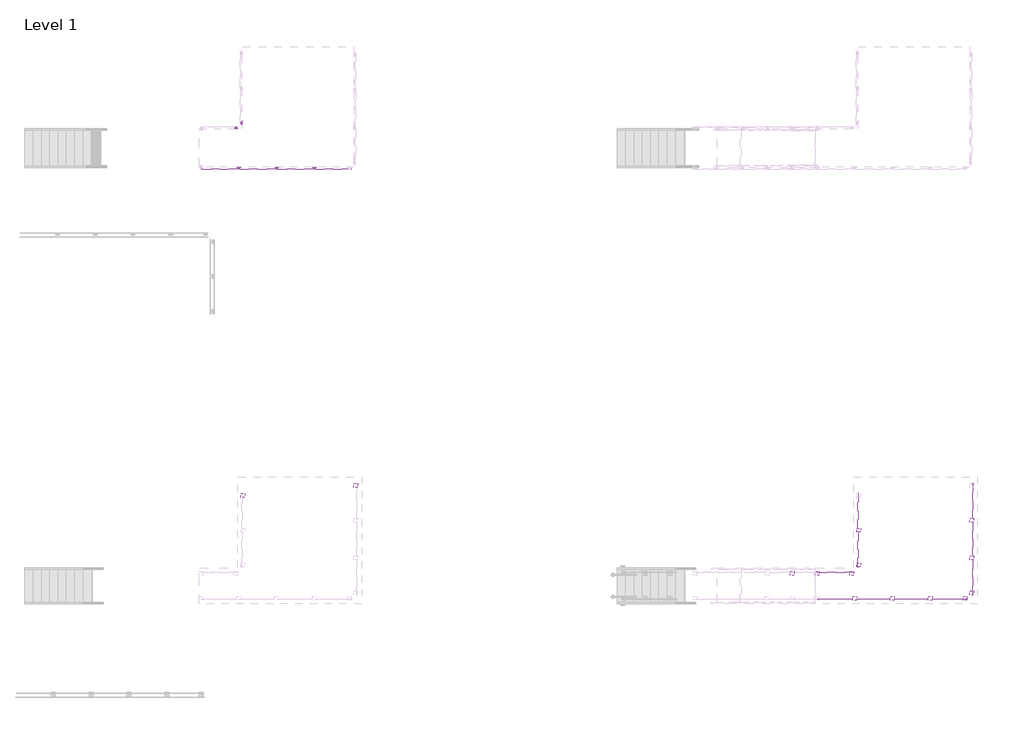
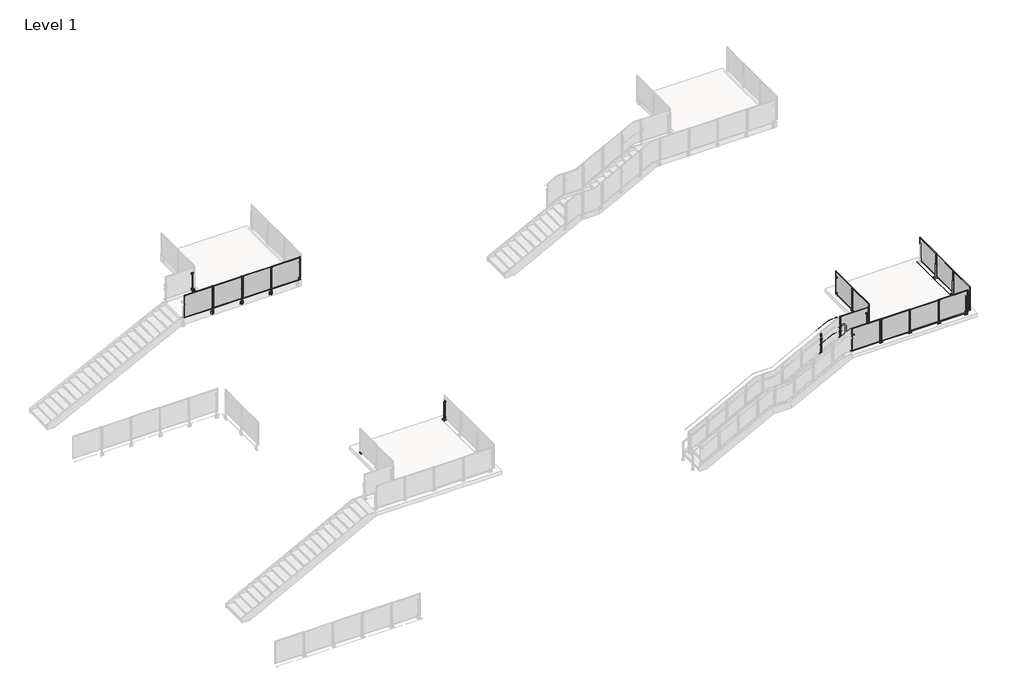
# One storey, part 15 of 28: 9 proxies, 6 railings.
"""IFC4 building model written with IfcOpenShell, lengths in millimetres."""

from ifc_helpers import new_model, si_unit, point, frame, frame_2d, origin, place, context, project, spatial, polyline, circle_curve, ellipse_curve, trimmed, segment, composite_curve, outline, extrude, transform, mapped, element, save
from ifc_brep_helpers import plane_surface, cylinder_surface, advanced_brep
from components import building_element_proxy_d87515a7, building_element_proxy_f0dd287b, building_element_proxy_88367a16, building_element_proxy_bd17ef1f, building_element_proxy_0a0706d1

model = new_model("IFC4")

# Units and contexts
model_context = context("Model", 3, world=origin())
ifc_project = project(units=[si_unit("LENGTHUNIT", "METRE", prefix="MILLI")], contexts=[model_context])

# Site, building, storey
site = spatial("IfcSite", under=ifc_project)
building = spatial("IfcBuilding", under=site)
storey = spatial("IfcBuildingStorey", under=building, Name="Level 1", Elevation=0.0)

# Proxies
placement = place(None, origin())
building_element_proxy_shape = building_element_proxy_d87515a7(model_context)
element("IfcBuildingElementProxy", 1, Name="Baluster-End-Post-VIVA-STRUC-Top Mount : ANCHORED TO CONCRETE_TOP MOUNT STRUC_STRAIGHT", ObjectType="Baluster-End-Post-VIVA-STRUC-Top Mount : ANCHORED TO CONCRETE_TOP MOUNT STRUC_STRAIGHT", at=placement, inside=storey, context=model_context, shape_type="MappedRepresentation", body=[
    mapped(building_element_proxy_shape, transform((-7177.6759339, -18337.8968047, 3047.492), x_axis=(0.0, 1.0, 0.0), y_axis=(-1.0, 0.0, 0.0), z_axis=(0.0, 0.0, 1.0))),
])
element("IfcBuildingElementProxy", 2, Name="Baluster-End-Post-VIVA-STRUC-Top Mount : ANCHORED TO CONCRETE_TOP MOUNT STRUC_STRAIGHT", ObjectType="Baluster-End-Post-VIVA-STRUC-Top Mount : ANCHORED TO CONCRETE_TOP MOUNT STRUC_STRAIGHT", at=placement, inside=storey, context=model_context, shape_type="MappedRepresentation", body=[
    mapped(building_element_proxy_shape, transform((-11020.4813244, -17678.0558878, 3047.492), x_axis=(-1.0, 0.0, 0.0), y_axis=(0.0, -1.0, 0.0), z_axis=(0.0, 0.0, 1.0))),
])
building_element_proxy_2_shape = building_element_proxy_f0dd287b(model_context)
element("IfcBuildingElementProxy", 3, Name="Baluster-End-Post-VIVA-STRUC-Top Mount : WELDED Fascia MOUNT STRUC_STRAIGHT", ObjectType="Baluster-End-Post-VIVA-STRUC-Top Mount : WELDED Fascia MOUNT STRUC_STRAIGHT", at=placement, inside=storey, context=model_context, shape_type="MappedRepresentation", body=[
    mapped(building_element_proxy_2_shape, transform((-31745.9500753, -2683.2814603, 3047.492), x_axis=(-1.0, 0.0, 0.0), y_axis=(0.0, -1.0, 0.0), z_axis=(0.0, 0.0, 1.0))),
])
building_element_proxy_3_shape = building_element_proxy_88367a16(model_context)
element("IfcBuildingElementProxy", 4, Name="Baluster-End-Post-VIVA-STRUC-Top Mount : ANCHORED TO CONCRETE_TOP MOUNT STRUC_STRAIGHT", ObjectType="Baluster-End-Post-VIVA-STRUC-Top Mount : ANCHORED TO CONCRETE_TOP MOUNT STRUC_STRAIGHT", at=placement, inside=storey, context=model_context, shape_type="MappedRepresentation", body=[
    mapped(building_element_proxy_3_shape, transform((-27904.0759339, -14527.8968047, 3047.492), x_axis=(0.0, 1.0, 0.0), y_axis=(-1.0, 0.0, 0.0), z_axis=(0.0, 0.0, 1.0))),
])
element("IfcBuildingElementProxy", 5, Name="Baluster-End-Post-VIVA-STRUC-Top Mount : ANCHORED TO CONCRETE_TOP MOUNT STRUC_STRAIGHT", ObjectType="Baluster-End-Post-VIVA-STRUC-Top Mount : ANCHORED TO CONCRETE_TOP MOUNT STRUC_STRAIGHT", at=placement, inside=storey, context=model_context, shape_type="MappedRepresentation", body=[
    mapped(building_element_proxy_3_shape, transform((-10784.7662678, -17397.5929387, 3047.492), x_axis=(0.0, -1.0, 0.0), y_axis=(1.0, 0.0, 0.0), z_axis=(0.0, 0.0, 1.0))),
])
element("IfcBuildingElementProxy", 6, Name="Baluster-End-Post-VIVA-STRUC-Top Mount : ANCHORED TO CONCRETE_TOP MOUNT STRUC_STRAIGHT", ObjectType="Baluster-End-Post-VIVA-STRUC-Top Mount : ANCHORED TO CONCRETE_TOP MOUNT STRUC_STRAIGHT", at=placement, inside=storey, context=model_context, shape_type="MappedRepresentation", body=[
    mapped(building_element_proxy_3_shape, transform((-7210.4813244, -18326.7922387, 3047.492), x_axis=(1.0, 0.0, 0.0), y_axis=(0.0, 1.0, 0.0), z_axis=(0.0, 0.0, 1.0))),
])
element("IfcBuildingElementProxy", 7, Name="Baluster-End-Post-VIVA-STRUC-Top Mount : ANCHORED TO CONCRETE_TOP MOUNT STRUC_STRAIGHT", ObjectType="Baluster-End-Post-VIVA-STRUC-Top Mount : ANCHORED TO CONCRETE_TOP MOUNT STRUC_STRAIGHT", at=placement, inside=storey, context=model_context, shape_type="MappedRepresentation", body=[
    mapped(building_element_proxy_shape, transform((-31511.1662678, -14857.5929387, 3047.492), x_axis=(0.0, -1.0, 0.0), y_axis=(1.0, 0.0, 0.0), z_axis=(0.0, 0.0, 1.0))),
])
building_element_proxy_4_shape = building_element_proxy_bd17ef1f(model_context)
element("IfcBuildingElementProxy", 8, Name="Baluster-End-Post-VIVA-STRUC-Top Mount : WELDED Fascia MOUNT STRUC_STRAIGHT", ObjectType="Baluster-End-Post-VIVA-STRUC-Top Mount : WELDED Fascia MOUNT STRUC_STRAIGHT", at=placement, inside=storey, context=model_context, shape_type="MappedRepresentation", body=[
    mapped(building_element_proxy_4_shape, transform((-31563.4049728, -2506.3726508, 3047.492), x_axis=(0.0, -1.0, 0.0), y_axis=(1.0, 0.0, 0.0), z_axis=(0.0, 0.0, 1.0))),
])
building_element_proxy_5_shape = building_element_proxy_0a0706d1(model_context)
element("IfcBuildingElementProxy", 9, Name="Baluster-End-Post-VIVA-STRUC-Top Mount-Stair : ANCHORED TO CONCRETE_TOP MOUNT STRUC_STAIR", ObjectType="Baluster-End-Post-VIVA-STRUC-Top Mount-Stair : ANCHORED TO CONCRETE_TOP MOUNT STRUC_STAIR", at=placement, inside=storey, context=model_context, shape_type="MappedRepresentation", body=[
    mapped(building_element_proxy_5_shape, transform((-12280.6217998, -17680.8942387, 3556.635), x_axis=(-1.0, 0.0, 0.0), y_axis=(0.0, -1.0, 0.0), z_axis=(0.0, 0.0, 1.0))),
])

# Railings
element("IfcRailing", 10, ObjectType="Metal-Panel-VIVA-STRUC-Fascia-Straight", at=placement, inside=storey, context=model_context, shape_type="SweptSolid", body=[
    extrude(outline(composite_curve([segment(trimmed(circle_curve(frame_2d((-3841.0034112, 3047.746)), 0.254), [point((-3841.2574112, 3047.746))], [point((-3840.7494112, 3047.746))], False, "CARTESIAN"), True, "CONTINUOUS"), segment(trimmed(circle_curve(frame_2d((-3841.0034112, 3047.746)), 0.254), [point((-3840.7494112, 3047.746))], [point((-3841.2574112, 3047.746))], False, "CARTESIAN"), True, "CONTINUOUS")], self_intersect=False)), frame((-33016.1434339, 0.0, 0.0), z_axis=(1.0, 0.0, 0.0), x_axis=(0.0, 1.0, 0.0)), (0.0, 0.0, 1.0), 5080.0),
    extrude(outline(composite_curve([segment(trimmed(circle_curve(frame_2d((-3841.0034112, 3047.746)), 0.254), [point((-3841.2574112, 3047.746))], [point((-3840.7494112, 3047.746))], False, "CARTESIAN"), True, "CONTINUOUS"), segment(trimmed(circle_curve(frame_2d((-3841.0034112, 3047.746)), 0.254), [point((-3840.7494112, 3047.746))], [point((-3841.2574112, 3047.746))], False, "CARTESIAN"), True, "CONTINUOUS")], self_intersect=False)), frame((-33016.1434339, 0.0, 0.0), z_axis=(1.0, 0.0, 0.0), x_axis=(0.0, 1.0, 0.0)), (0.0, 0.0, 1.0), 5080.0),
    extrude(outline(polyline([(-29165.3169769, -3970.6972112), (-29165.3169769, -3967.6972112), (-27976.9698908, -3967.6972112), (-27976.9698908, -3970.6972112), (-29165.3169769, -3970.6972112)])), frame((0.0, 0.0, 3124.1959569), z_axis=(0.0, 0.0, 1.0), x_axis=(1.0, 0.0, 0.0)), (0.0, 0.0, 1.0), 990.5826861),
    extrude(outline(polyline([(3098.7959569, -29190.7169769), (3098.7959569, -27951.5698908), (4140.1786431, -27951.5698908), (4140.1786431, -29190.7169769), (3098.7959569, -29190.7169769)]), holes=[polyline([(4114.7786431, -29165.3169769), (4114.7786431, -27976.9698908), (3124.1959569, -27976.9698908), (3124.1959569, -29165.3169769), (4114.7786431, -29165.3169769)])]), frame((0.0, -3977.2222112, 0.0), z_axis=(0.0, 1.0, 0.0), x_axis=(0.0, 0.0, 1.0)), (0.0, 0.0, 1.0), 9.525),
    extrude(outline(polyline([(-29244.2441531, -3960.5866112), (-29168.0427146, -3960.5866112), (-29168.0427146, -3967.6986112), (-29244.2441531, -3967.6986112), (-29244.2441531, -3960.5866112)])), frame((0.0, 0.0, 3529.076), z_axis=(0.0, 0.0, 1.0), x_axis=(1.0, 0.0, 0.0)), (0.0, 0.0, 1.0), 50.8),
    extrude(outline(polyline([(-29244.2441531, -3960.5866112), (-29168.0427146, -3960.5866112), (-29168.0427146, -3967.6986112), (-29244.2441531, -3967.6986112), (-29244.2441531, -3960.5866112)])), frame((0.0, 0.0, 3071.876), z_axis=(0.0, 0.0, 1.0), x_axis=(1.0, 0.0, 0.0)), (0.0, 0.0, 1.0), 50.8),
    extrude(outline(polyline([(-29198.2080255, -3954.7446112), (-29198.2080255, -3912.8346112), (-29142.647504, -3912.8346112), (-29142.647504, -3920.9626112), (-29190.2070255, -3920.9626112), (-29190.2070255, -3954.7446112), (-29198.2080255, -3954.7446112)])), frame((0.0, 0.0, 2832.1), z_axis=(0.0, 0.0, 1.0), x_axis=(1.0, 0.0, 0.0)), (0.0, 0.0, 1.0), 127.0),
    extrude(outline(polyline([(-29214.0830255, -3954.7446112), (-29222.0840255, -3954.7446112), (-29222.0840255, -3920.9626112), (-29269.6435471, -3920.9626112), (-29269.6435471, -3912.8346112), (-29214.0830255, -3912.8346112), (-29214.0830255, -3954.7446112)])), frame((0.0, 0.0, 2832.1), z_axis=(0.0, 0.0, 1.0), x_axis=(1.0, 0.0, 0.0)), (0.0, 0.0, 1.0), 127.0),
    extrude(outline(polyline([(-29214.0830255, -3916.1366112), (-29198.2038422, -3916.1366112), (-29198.2038422, -3960.5866112), (-29214.0830255, -3960.5866112), (-29214.0830255, -3916.1366112)])), frame((0.0, 0.0, 2832.1), z_axis=(0.0, 0.0, 1.0), x_axis=(1.0, 0.0, 0.0)), (0.0, 0.0, 1.0), 787.4),
    extrude(outline(polyline([(-30435.3169769, -3970.6972112), (-30435.3169769, -3967.6972112), (-29246.9698908, -3967.6972112), (-29246.9698908, -3970.6972112), (-30435.3169769, -3970.6972112)])), frame((0.0, 0.0, 3124.1959569), z_axis=(0.0, 0.0, 1.0), x_axis=(1.0, 0.0, 0.0)), (0.0, 0.0, 1.0), 990.5826861),
    extrude(outline(polyline([(3098.7959569, -30460.7169769), (3098.7959569, -29221.5698908), (4140.1786431, -29221.5698908), (4140.1786431, -30460.7169769), (3098.7959569, -30460.7169769)]), holes=[polyline([(4114.7786431, -30435.3169769), (4114.7786431, -29246.9698908), (3124.1959569, -29246.9698908), (3124.1959569, -30435.3169769), (4114.7786431, -30435.3169769)])]), frame((0.0, -3977.2222112, 0.0), z_axis=(0.0, 1.0, 0.0), x_axis=(0.0, 0.0, 1.0)), (0.0, 0.0, 1.0), 9.525),
    extrude(outline(polyline([(-30514.2441531, -3960.5866112), (-30438.0427146, -3960.5866112), (-30438.0427146, -3967.6986112), (-30514.2441531, -3967.6986112), (-30514.2441531, -3960.5866112)])), frame((0.0, 0.0, 3529.076), z_axis=(0.0, 0.0, 1.0), x_axis=(1.0, 0.0, 0.0)), (0.0, 0.0, 1.0), 50.8),
    extrude(outline(polyline([(-30514.2441531, -3960.5866112), (-30438.0427146, -3960.5866112), (-30438.0427146, -3967.6986112), (-30514.2441531, -3967.6986112), (-30514.2441531, -3960.5866112)])), frame((0.0, 0.0, 3071.876), z_axis=(0.0, 0.0, 1.0), x_axis=(1.0, 0.0, 0.0)), (0.0, 0.0, 1.0), 50.8),
    extrude(outline(polyline([(-30468.2080255, -3954.7446112), (-30468.2080255, -3912.8346112), (-30412.647504, -3912.8346112), (-30412.647504, -3920.9626112), (-30460.2070255, -3920.9626112), (-30460.2070255, -3954.7446112), (-30468.2080255, -3954.7446112)])), frame((0.0, 0.0, 2832.1), z_axis=(0.0, 0.0, 1.0), x_axis=(1.0, 0.0, 0.0)), (0.0, 0.0, 1.0), 127.0),
    extrude(outline(polyline([(-30484.0830255, -3954.7446112), (-30492.0840255, -3954.7446112), (-30492.0840255, -3920.9626112), (-30539.6435471, -3920.9626112), (-30539.6435471, -3912.8346112), (-30484.0830255, -3912.8346112), (-30484.0830255, -3954.7446112)])), frame((0.0, 0.0, 2832.1), z_axis=(0.0, 0.0, 1.0), x_axis=(1.0, 0.0, 0.0)), (0.0, 0.0, 1.0), 127.0),
    extrude(outline(polyline([(-30484.0830255, -3916.1366112), (-30468.2038422, -3916.1366112), (-30468.2038422, -3960.5866112), (-30484.0830255, -3960.5866112), (-30484.0830255, -3916.1366112)])), frame((0.0, 0.0, 2832.1), z_axis=(0.0, 0.0, 1.0), x_axis=(1.0, 0.0, 0.0)), (0.0, 0.0, 1.0), 787.4),
    extrude(outline(polyline([(-31705.3169769, -3970.6972112), (-31705.3169769, -3967.6972112), (-30516.9698908, -3967.6972112), (-30516.9698908, -3970.6972112), (-31705.3169769, -3970.6972112)])), frame((0.0, 0.0, 3124.1959569), z_axis=(0.0, 0.0, 1.0), x_axis=(1.0, 0.0, 0.0)), (0.0, 0.0, 1.0), 990.5826861),
    extrude(outline(polyline([(3098.7959569, -31730.7169769), (3098.7959569, -30491.5698908), (4140.1786431, -30491.5698908), (4140.1786431, -31730.7169769), (3098.7959569, -31730.7169769)]), holes=[polyline([(4114.7786431, -31705.3169769), (4114.7786431, -30516.9698908), (3124.1959569, -30516.9698908), (3124.1959569, -31705.3169769), (4114.7786431, -31705.3169769)])]), frame((0.0, -3977.2222112, 0.0), z_axis=(0.0, 1.0, 0.0), x_axis=(0.0, 0.0, 1.0)), (0.0, 0.0, 1.0), 9.525),
    extrude(outline(polyline([(-31784.2441531, -3960.5866112), (-31708.0427146, -3960.5866112), (-31708.0427146, -3967.6986112), (-31784.2441531, -3967.6986112), (-31784.2441531, -3960.5866112)])), frame((0.0, 0.0, 3529.076), z_axis=(0.0, 0.0, 1.0), x_axis=(1.0, 0.0, 0.0)), (0.0, 0.0, 1.0), 50.8),
    extrude(outline(polyline([(-31784.2441531, -3960.5866112), (-31708.0427146, -3960.5866112), (-31708.0427146, -3967.6986112), (-31784.2441531, -3967.6986112), (-31784.2441531, -3960.5866112)])), frame((0.0, 0.0, 3071.876), z_axis=(0.0, 0.0, 1.0), x_axis=(1.0, 0.0, 0.0)), (0.0, 0.0, 1.0), 50.8),
    extrude(outline(polyline([(-31738.2080255, -3954.7446112), (-31738.2080255, -3912.8346112), (-31682.647504, -3912.8346112), (-31682.647504, -3920.9626112), (-31730.2070255, -3920.9626112), (-31730.2070255, -3954.7446112), (-31738.2080255, -3954.7446112)])), frame((0.0, 0.0, 2832.1), z_axis=(0.0, 0.0, 1.0), x_axis=(1.0, 0.0, 0.0)), (0.0, 0.0, 1.0), 127.0),
    extrude(outline(polyline([(-31754.0830255, -3954.7446112), (-31762.0840255, -3954.7446112), (-31762.0840255, -3920.9626112), (-31809.6435471, -3920.9626112), (-31809.6435471, -3912.8346112), (-31754.0830255, -3912.8346112), (-31754.0830255, -3954.7446112)])), frame((0.0, 0.0, 2832.1), z_axis=(0.0, 0.0, 1.0), x_axis=(1.0, 0.0, 0.0)), (0.0, 0.0, 1.0), 127.0),
    extrude(outline(polyline([(-31754.0830255, -3916.1366112), (-31738.2038422, -3916.1366112), (-31738.2038422, -3960.5866112), (-31754.0830255, -3960.5866112), (-31754.0830255, -3916.1366112)])), frame((0.0, 0.0, 2832.1), z_axis=(0.0, 0.0, 1.0), x_axis=(1.0, 0.0, 0.0)), (0.0, 0.0, 1.0), 787.4),
    extrude(outline(polyline([(-32975.3169769, -3970.6972112), (-32975.3169769, -3967.6972112), (-31786.9698908, -3967.6972112), (-31786.9698908, -3970.6972112), (-32975.3169769, -3970.6972112)])), frame((0.0, 0.0, 3124.1959569), z_axis=(0.0, 0.0, 1.0), x_axis=(1.0, 0.0, 0.0)), (0.0, 0.0, 1.0), 990.5826861),
    extrude(outline(polyline([(3098.7959569, -33000.7169769), (3098.7959569, -31761.5698908), (4140.1786431, -31761.5698908), (4140.1786431, -33000.7169769), (3098.7959569, -33000.7169769)]), holes=[polyline([(4114.7786431, -32975.3169769), (4114.7786431, -31786.9698908), (3124.1959569, -31786.9698908), (3124.1959569, -32975.3169769), (4114.7786431, -32975.3169769)])]), frame((0.0, -3977.2222112, 0.0), z_axis=(0.0, 1.0, 0.0), x_axis=(0.0, 0.0, 1.0)), (0.0, 0.0, 1.0), 9.525),
])
element("IfcRailing", 11, ObjectType="Metal-Panel-VIVA-STRUC-Slab-Top-Anchor-Straight", at=placement, inside=storey, context=model_context, shape_type="SweptSolid", body=[
    extrude(outline(composite_curve([segment(trimmed(circle_curve(frame_2d((-18326.7922387, 3047.746)), 0.254), [point((-18327.0462387, 3047.746))], [point((-18326.5382387, 3047.746))], False, "CARTESIAN"), True, "CONTINUOUS"), segment(trimmed(circle_curve(frame_2d((-18326.7922387, 3047.746)), 0.254), [point((-18326.5382387, 3047.746))], [point((-18327.0462387, 3047.746))], False, "CARTESIAN"), True, "CONTINUOUS")], self_intersect=False)), frame((-12290.4813244, 0.0, 0.0), z_axis=(1.0, 0.0, 0.0), x_axis=(0.0, 1.0, 0.0)), (0.0, 0.0, 1.0), 5080.0),
    extrude(outline(composite_curve([segment(trimmed(circle_curve(frame_2d((-18326.7922387, 3047.746)), 0.254), [point((-18327.0462387, 3047.746))], [point((-18326.5382387, 3047.746))], False, "CARTESIAN"), True, "CONTINUOUS"), segment(trimmed(circle_curve(frame_2d((-18326.7922387, 3047.746)), 0.254), [point((-18326.5382387, 3047.746))], [point((-18327.0462387, 3047.746))], False, "CARTESIAN"), True, "CONTINUOUS")], self_intersect=False)), frame((-12290.4813244, 0.0, 0.0), z_axis=(1.0, 0.0, 0.0), x_axis=(0.0, 1.0, 0.0)), (0.0, 0.0, 1.0), 5080.0),
    extrude(outline(polyline([(-8439.6548675, -18453.6412387), (-8439.6548675, -18450.6412387), (-7251.3077814, -18450.6412387), (-7251.3077814, -18453.6412387), (-8439.6548675, -18453.6412387)])), frame((0.0, 0.0, 3124.1959569), z_axis=(0.0, 0.0, 1.0), x_axis=(1.0, 0.0, 0.0)), (0.0, 0.0, 1.0), 990.5826861),
    extrude(outline(polyline([(3098.7959569, -8465.0548675), (3098.7959569, -7225.9077814), (4140.1786431, -7225.9077814), (4140.1786431, -8465.0548675), (3098.7959569, -8465.0548675)]), holes=[polyline([(4114.7786431, -8439.6548675), (4114.7786431, -7251.3077814), (3124.1959569, -7251.3077814), (3124.1959569, -8439.6548675), (4114.7786431, -8439.6548675)])]), frame((0.0, -18460.1662387, 0.0), z_axis=(0.0, 1.0, 0.0), x_axis=(0.0, 0.0, 1.0)), (0.0, 0.0, 1.0), 9.525),
    extrude(outline(polyline([(-8518.5820437, -18443.5306387), (-8442.3806052, -18443.5306387), (-8442.3806052, -18450.6426387), (-8518.5820437, -18450.6426387), (-8518.5820437, -18443.5306387)])), frame((0.0, 0.0, 3617.976), z_axis=(0.0, 0.0, 1.0), x_axis=(1.0, 0.0, 0.0)), (0.0, 0.0, 1.0), 50.8),
    extrude(outline(polyline([(-8518.5820437, -18443.5306387), (-8442.3806052, -18443.5306387), (-8442.3806052, -18450.6426387), (-8518.5820437, -18450.6426387), (-8518.5820437, -18443.5306387)])), frame((0.0, 0.0, 3160.776), z_axis=(0.0, 0.0, 1.0), x_axis=(1.0, 0.0, 0.0)), (0.0, 0.0, 1.0), 50.8),
    extrude(outline(polyline([(-8546.3689244, -18355.4180387), (-8414.5937244, -18355.4180387), (-8414.5937244, -18487.1932387), (-8546.3689244, -18487.1932387), (-8546.3689244, -18355.4180387)])), frame((0.0, 0.0, 3048.0), z_axis=(0.0, 0.0, 1.0), x_axis=(1.0, 0.0, 0.0)), (0.0, 0.0, 1.0), 25.4),
    extrude(outline(polyline([(-8488.4209161, -18399.0806387), (-8472.5417328, -18399.0806387), (-8472.5417328, -18443.5306387), (-8488.4209161, -18443.5306387), (-8488.4209161, -18399.0806387)])), frame((0.0, 0.0, 3048.0), z_axis=(0.0, 0.0, 1.0), x_axis=(1.0, 0.0, 0.0)), (0.0, 0.0, 1.0), 660.4),
    extrude(outline(polyline([(-9709.6548675, -18453.6412387), (-9709.6548675, -18450.6412387), (-8521.3077814, -18450.6412387), (-8521.3077814, -18453.6412387), (-9709.6548675, -18453.6412387)])), frame((0.0, 0.0, 3124.1959569), z_axis=(0.0, 0.0, 1.0), x_axis=(1.0, 0.0, 0.0)), (0.0, 0.0, 1.0), 990.5826861),
    extrude(outline(polyline([(3098.7959569, -9735.0548675), (3098.7959569, -8495.9077814), (4140.1786431, -8495.9077814), (4140.1786431, -9735.0548675), (3098.7959569, -9735.0548675)]), holes=[polyline([(4114.7786431, -9709.6548675), (4114.7786431, -8521.3077814), (3124.1959569, -8521.3077814), (3124.1959569, -9709.6548675), (4114.7786431, -9709.6548675)])]), frame((0.0, -18460.1662387, 0.0), z_axis=(0.0, 1.0, 0.0), x_axis=(0.0, 0.0, 1.0)), (0.0, 0.0, 1.0), 9.525),
    extrude(outline(polyline([(-9788.5820437, -18443.5306387), (-9712.3806052, -18443.5306387), (-9712.3806052, -18450.6426387), (-9788.5820437, -18450.6426387), (-9788.5820437, -18443.5306387)])), frame((0.0, 0.0, 3617.976), z_axis=(0.0, 0.0, 1.0), x_axis=(1.0, 0.0, 0.0)), (0.0, 0.0, 1.0), 50.8),
    extrude(outline(polyline([(-9788.5820437, -18443.5306387), (-9712.3806052, -18443.5306387), (-9712.3806052, -18450.6426387), (-9788.5820437, -18450.6426387), (-9788.5820437, -18443.5306387)])), frame((0.0, 0.0, 3160.776), z_axis=(0.0, 0.0, 1.0), x_axis=(1.0, 0.0, 0.0)), (0.0, 0.0, 1.0), 50.8),
    extrude(outline(polyline([(-9816.3689244, -18355.4180387), (-9684.5937244, -18355.4180387), (-9684.5937244, -18487.1932387), (-9816.3689244, -18487.1932387), (-9816.3689244, -18355.4180387)])), frame((0.0, 0.0, 3048.0), z_axis=(0.0, 0.0, 1.0), x_axis=(1.0, 0.0, 0.0)), (0.0, 0.0, 1.0), 25.4),
    extrude(outline(polyline([(-9758.4209161, -18399.0806387), (-9742.5417328, -18399.0806387), (-9742.5417328, -18443.5306387), (-9758.4209161, -18443.5306387), (-9758.4209161, -18399.0806387)])), frame((0.0, 0.0, 3048.0), z_axis=(0.0, 0.0, 1.0), x_axis=(1.0, 0.0, 0.0)), (0.0, 0.0, 1.0), 660.4),
    extrude(outline(polyline([(-10979.6548675, -18453.6412387), (-10979.6548675, -18450.6412387), (-9791.3077814, -18450.6412387), (-9791.3077814, -18453.6412387), (-10979.6548675, -18453.6412387)])), frame((0.0, 0.0, 3124.1959569), z_axis=(0.0, 0.0, 1.0), x_axis=(1.0, 0.0, 0.0)), (0.0, 0.0, 1.0), 990.5826861),
    extrude(outline(polyline([(3098.7959569, -11005.0548675), (3098.7959569, -9765.9077814), (4140.1786431, -9765.9077814), (4140.1786431, -11005.0548675), (3098.7959569, -11005.0548675)]), holes=[polyline([(4114.7786431, -10979.6548675), (4114.7786431, -9791.3077814), (3124.1959569, -9791.3077814), (3124.1959569, -10979.6548675), (4114.7786431, -10979.6548675)])]), frame((0.0, -18460.1662387, 0.0), z_axis=(0.0, 1.0, 0.0), x_axis=(0.0, 0.0, 1.0)), (0.0, 0.0, 1.0), 9.525),
    extrude(outline(polyline([(-11058.5820437, -18443.5306387), (-10982.3806052, -18443.5306387), (-10982.3806052, -18450.6426387), (-11058.5820437, -18450.6426387), (-11058.5820437, -18443.5306387)])), frame((0.0, 0.0, 3617.976), z_axis=(0.0, 0.0, 1.0), x_axis=(1.0, 0.0, 0.0)), (0.0, 0.0, 1.0), 50.8),
    extrude(outline(polyline([(-11058.5820437, -18443.5306387), (-10982.3806052, -18443.5306387), (-10982.3806052, -18450.6426387), (-11058.5820437, -18450.6426387), (-11058.5820437, -18443.5306387)])), frame((0.0, 0.0, 3160.776), z_axis=(0.0, 0.0, 1.0), x_axis=(1.0, 0.0, 0.0)), (0.0, 0.0, 1.0), 50.8),
    extrude(outline(polyline([(-11086.3689244, -18355.4180387), (-10954.5937244, -18355.4180387), (-10954.5937244, -18487.1932387), (-11086.3689244, -18487.1932387), (-11086.3689244, -18355.4180387)])), frame((0.0, 0.0, 3048.0), z_axis=(0.0, 0.0, 1.0), x_axis=(1.0, 0.0, 0.0)), (0.0, 0.0, 1.0), 25.4),
    extrude(outline(polyline([(-11028.4209161, -18399.0806387), (-11012.5417328, -18399.0806387), (-11012.5417328, -18443.5306387), (-11028.4209161, -18443.5306387), (-11028.4209161, -18399.0806387)])), frame((0.0, 0.0, 3048.0), z_axis=(0.0, 0.0, 1.0), x_axis=(1.0, 0.0, 0.0)), (0.0, 0.0, 1.0), 660.4),
    extrude(outline(polyline([(-12249.6548675, -18453.6412387), (-12249.6548675, -18450.6412387), (-11061.3077814, -18450.6412387), (-11061.3077814, -18453.6412387), (-12249.6548675, -18453.6412387)])), frame((0.0, 0.0, 3124.1959569), z_axis=(0.0, 0.0, 1.0), x_axis=(1.0, 0.0, 0.0)), (0.0, 0.0, 1.0), 990.5826861),
    extrude(outline(polyline([(3098.7959569, -12275.0548675), (3098.7959569, -11035.9077814), (4140.1786431, -11035.9077814), (4140.1786431, -12275.0548675), (3098.7959569, -12275.0548675)]), holes=[polyline([(4114.7786431, -12249.6548675), (4114.7786431, -11061.3077814), (3124.1959569, -11061.3077814), (3124.1959569, -12249.6548675), (4114.7786431, -12249.6548675)])]), frame((0.0, -18460.1662387, 0.0), z_axis=(0.0, 1.0, 0.0), x_axis=(0.0, 0.0, 1.0)), (0.0, 0.0, 1.0), 9.525),
])
element("IfcRailing", 12, ObjectType="Metal-Panel-VIVA-STRUC-Slab-Top-Anchor-Straight", at=placement, inside=storey, context=model_context, shape_type="SweptSolid", body=[
    extrude(outline(composite_curve([segment(trimmed(circle_curve(frame_2d((3047.746, -10784.7662678)), 0.254), [point((3047.746, -10784.5122678))], [point((3047.746, -10785.0202678))], False, "CARTESIAN"), True, "CONTINUOUS"), segment(trimmed(circle_curve(frame_2d((3047.746, -10784.7662678)), 0.254), [point((3047.746, -10785.0202678))], [point((3047.746, -10784.5122678))], False, "CARTESIAN"), True, "CONTINUOUS")], self_intersect=False)), frame((0.0, -17397.5929387, 0.0), z_axis=(0.0, 1.0, 0.0), x_axis=(0.0, 0.0, 1.0)), (0.0, 0.0, 1.0), 2540.0),
    extrude(outline(composite_curve([segment(trimmed(circle_curve(frame_2d((3047.746, -10784.7662678)), 0.254), [point((3047.746, -10784.5122678))], [point((3047.746, -10785.0202678))], False, "CARTESIAN"), True, "CONTINUOUS"), segment(trimmed(circle_curve(frame_2d((3047.746, -10784.7662678)), 0.254), [point((3047.746, -10785.0202678))], [point((3047.746, -10784.5122678))], False, "CARTESIAN"), True, "CONTINUOUS")], self_intersect=False)), frame((0.0, -17397.5929387, 0.0), z_axis=(0.0, 1.0, 0.0), x_axis=(0.0, 0.0, 1.0)), (0.0, 0.0, 1.0), 2540.0),
    extrude(outline(polyline([(-10911.6152678, -16086.7664818), (-10911.6152678, -14898.4193956), (-10908.6152678, -14898.4193956), (-10908.6152678, -16086.7664818), (-10911.6152678, -16086.7664818)])), frame((0.0, 0.0, 3124.1959569), z_axis=(0.0, 0.0, 1.0), x_axis=(1.0, 0.0, 0.0)), (0.0, 0.0, 1.0), 990.5826861),
    extrude(outline(polyline([(-16112.1664818, 3098.7959569), (-16112.1664818, 4140.1786431), (-14873.0193956, 4140.1786431), (-14873.0193956, 3098.7959569), (-16112.1664818, 3098.7959569)]), holes=[polyline([(-16086.7664818, 4114.7786431), (-16086.7664818, 3124.1959569), (-14898.4193956, 3124.1959569), (-14898.4193956, 4114.7786431), (-16086.7664818, 4114.7786431)])]), frame((-10918.1402678, 0.0, 0.0), z_axis=(1.0, 0.0, 0.0), x_axis=(0.0, 1.0, 0.0)), (0.0, 0.0, 1.0), 9.525),
    extrude(outline(polyline([(-10901.5046678, -16165.693658), (-10908.6166678, -16165.693658), (-10908.6166678, -16089.4922195), (-10901.5046678, -16089.4922195), (-10901.5046678, -16165.693658)])), frame((0.0, 0.0, 3617.976), z_axis=(0.0, 0.0, 1.0), x_axis=(1.0, 0.0, 0.0)), (0.0, 0.0, 1.0), 50.8),
    extrude(outline(polyline([(-10901.5046678, -16165.693658), (-10908.6166678, -16165.693658), (-10908.6166678, -16089.4922195), (-10901.5046678, -16089.4922195), (-10901.5046678, -16165.693658)])), frame((0.0, 0.0, 3160.776), z_axis=(0.0, 0.0, 1.0), x_axis=(1.0, 0.0, 0.0)), (0.0, 0.0, 1.0), 50.8),
    extrude(outline(polyline([(-10813.3920678, -16193.4805387), (-10945.1672678, -16193.4805387), (-10945.1672678, -16061.7053387), (-10813.3920678, -16061.7053387), (-10813.3920678, -16193.4805387)])), frame((0.0, 0.0, 3048.0), z_axis=(0.0, 0.0, 1.0), x_axis=(1.0, 0.0, 0.0)), (0.0, 0.0, 1.0), 25.4),
    extrude(outline(polyline([(-10857.0546678, -16135.5325304), (-10901.5046678, -16135.5325304), (-10901.5046678, -16119.6533471), (-10857.0546678, -16119.6533471), (-10857.0546678, -16135.5325304)])), frame((0.0, 0.0, 3048.0), z_axis=(0.0, 0.0, 1.0), x_axis=(1.0, 0.0, 0.0)), (0.0, 0.0, 1.0), 660.4),
    extrude(outline(polyline([(-10911.6152678, -17356.7664818), (-10911.6152678, -16168.4193956), (-10908.6152678, -16168.4193956), (-10908.6152678, -17356.7664818), (-10911.6152678, -17356.7664818)])), frame((0.0, 0.0, 3124.1959569), z_axis=(0.0, 0.0, 1.0), x_axis=(1.0, 0.0, 0.0)), (0.0, 0.0, 1.0), 990.5826861),
    extrude(outline(polyline([(-17382.1664818, 3098.7959569), (-17382.1664818, 4140.1786431), (-16143.0193956, 4140.1786431), (-16143.0193956, 3098.7959569), (-17382.1664818, 3098.7959569)]), holes=[polyline([(-17356.7664818, 4114.7786431), (-17356.7664818, 3124.1959569), (-16168.4193956, 3124.1959569), (-16168.4193956, 4114.7786431), (-17356.7664818, 4114.7786431)])]), frame((-10918.1402678, 0.0, 0.0), z_axis=(1.0, 0.0, 0.0), x_axis=(0.0, 1.0, 0.0)), (0.0, 0.0, 1.0), 9.525),
])
element("IfcRailing", 13, ObjectType="Metal-Panel-VIVA-STRUC-Slab-Top-Anchor-Straight", at=placement, inside=storey, context=model_context, shape_type="SweptSolid", body=[
    extrude(outline(composite_curve([segment(trimmed(circle_curve(frame_2d((3047.746, -7177.6759339)), 0.254), [point((3047.746, -7177.4219339))], [point((3047.746, -7177.9299339))], False, "CARTESIAN"), True, "CONTINUOUS"), segment(trimmed(circle_curve(frame_2d((3047.746, -7177.6759339)), 0.254), [point((3047.746, -7177.9299339))], [point((3047.746, -7177.4219339))], False, "CARTESIAN"), True, "CONTINUOUS")], self_intersect=False)), frame((0.0, -18337.8968047, 0.0), z_axis=(0.0, 1.0, 0.0), x_axis=(0.0, 0.0, 1.0)), (0.0, 0.0, 1.0), 3810.0),
    extrude(outline(composite_curve([segment(trimmed(circle_curve(frame_2d((3047.746, -7177.6759339)), 0.254), [point((3047.746, -7177.4219339))], [point((3047.746, -7177.9299339))], False, "CARTESIAN"), True, "CONTINUOUS"), segment(trimmed(circle_curve(frame_2d((3047.746, -7177.6759339)), 0.254), [point((3047.746, -7177.9299339))], [point((3047.746, -7177.4219339))], False, "CARTESIAN"), True, "CONTINUOUS")], self_intersect=False)), frame((0.0, -18337.8968047, 0.0), z_axis=(0.0, 1.0, 0.0), x_axis=(0.0, 0.0, 1.0)), (0.0, 0.0, 1.0), 3810.0),
    extrude(outline(polyline([(-7050.8269339, -15757.0703478), (-7053.8269339, -15757.0703478), (-7053.8269339, -14568.7232617), (-7050.8269339, -14568.7232617), (-7050.8269339, -15757.0703478)])), frame((0.0, 0.0, 3124.1959569), z_axis=(0.0, 0.0, 1.0), x_axis=(1.0, 0.0, 0.0)), (0.0, 0.0, 1.0), 990.5826861),
    extrude(outline(polyline([(-15782.4703478, 4140.1786431), (-14543.3232617, 4140.1786431), (-14543.3232617, 3098.7959569), (-15782.4703478, 3098.7959569), (-15782.4703478, 4140.1786431)]), holes=[polyline([(-15757.0703478, 3124.1959569), (-14568.7232617, 3124.1959569), (-14568.7232617, 4114.7786431), (-15757.0703478, 4114.7786431), (-15757.0703478, 3124.1959569)])]), frame((-7053.8269339, 0.0, 0.0), z_axis=(1.0, 0.0, 0.0), x_axis=(0.0, 1.0, 0.0)), (0.0, 0.0, 1.0), 9.525),
    extrude(outline(polyline([(-7060.9375339, -15835.997524), (-7060.9375339, -15759.7960855), (-7053.8255339, -15759.7960855), (-7053.8255339, -15835.997524), (-7060.9375339, -15835.997524)])), frame((0.0, 0.0, 3617.976), z_axis=(0.0, 0.0, 1.0), x_axis=(1.0, 0.0, 0.0)), (0.0, 0.0, 1.0), 50.8),
    extrude(outline(polyline([(-7060.9375339, -15835.997524), (-7060.9375339, -15759.7960855), (-7053.8255339, -15759.7960855), (-7053.8255339, -15835.997524), (-7060.9375339, -15835.997524)])), frame((0.0, 0.0, 3160.776), z_axis=(0.0, 0.0, 1.0), x_axis=(1.0, 0.0, 0.0)), (0.0, 0.0, 1.0), 50.8),
    extrude(outline(polyline([(-7149.0501339, -15863.7844047), (-7149.0501339, -15732.0092047), (-7017.2749339, -15732.0092047), (-7017.2749339, -15863.7844047), (-7149.0501339, -15863.7844047)])), frame((0.0, 0.0, 3048.0), z_axis=(0.0, 0.0, 1.0), x_axis=(1.0, 0.0, 0.0)), (0.0, 0.0, 1.0), 25.4),
    extrude(outline(polyline([(-7105.3875339, -15805.8363964), (-7105.3875339, -15789.9572131), (-7060.9375339, -15789.9572131), (-7060.9375339, -15805.8363964), (-7105.3875339, -15805.8363964)])), frame((0.0, 0.0, 3048.0), z_axis=(0.0, 0.0, 1.0), x_axis=(1.0, 0.0, 0.0)), (0.0, 0.0, 1.0), 660.4),
    extrude(outline(polyline([(-7050.8269339, -17027.0703478), (-7053.8269339, -17027.0703478), (-7053.8269339, -15838.7232617), (-7050.8269339, -15838.7232617), (-7050.8269339, -17027.0703478)])), frame((0.0, 0.0, 3124.1959569), z_axis=(0.0, 0.0, 1.0), x_axis=(1.0, 0.0, 0.0)), (0.0, 0.0, 1.0), 990.5826861),
    extrude(outline(polyline([(-17052.4703478, 4140.1786431), (-15813.3232617, 4140.1786431), (-15813.3232617, 3098.7959569), (-17052.4703478, 3098.7959569), (-17052.4703478, 4140.1786431)]), holes=[polyline([(-17027.0703478, 3124.1959569), (-15838.7232617, 3124.1959569), (-15838.7232617, 4114.7786431), (-17027.0703478, 4114.7786431), (-17027.0703478, 3124.1959569)])]), frame((-7053.8269339, 0.0, 0.0), z_axis=(1.0, 0.0, 0.0), x_axis=(0.0, 1.0, 0.0)), (0.0, 0.0, 1.0), 9.525),
    extrude(outline(polyline([(-7060.9375339, -17105.997524), (-7060.9375339, -17029.7960855), (-7053.8255339, -17029.7960855), (-7053.8255339, -17105.997524), (-7060.9375339, -17105.997524)])), frame((0.0, 0.0, 3617.976), z_axis=(0.0, 0.0, 1.0), x_axis=(1.0, 0.0, 0.0)), (0.0, 0.0, 1.0), 50.8),
    extrude(outline(polyline([(-7060.9375339, -17105.997524), (-7060.9375339, -17029.7960855), (-7053.8255339, -17029.7960855), (-7053.8255339, -17105.997524), (-7060.9375339, -17105.997524)])), frame((0.0, 0.0, 3160.776), z_axis=(0.0, 0.0, 1.0), x_axis=(1.0, 0.0, 0.0)), (0.0, 0.0, 1.0), 50.8),
    extrude(outline(polyline([(-7149.0501339, -17133.7844047), (-7149.0501339, -17002.0092047), (-7017.2749339, -17002.0092047), (-7017.2749339, -17133.7844047), (-7149.0501339, -17133.7844047)])), frame((0.0, 0.0, 3048.0), z_axis=(0.0, 0.0, 1.0), x_axis=(1.0, 0.0, 0.0)), (0.0, 0.0, 1.0), 25.4),
    extrude(outline(polyline([(-7105.3875339, -17075.8363964), (-7105.3875339, -17059.9572131), (-7060.9375339, -17059.9572131), (-7060.9375339, -17075.8363964), (-7105.3875339, -17075.8363964)])), frame((0.0, 0.0, 3048.0), z_axis=(0.0, 0.0, 1.0), x_axis=(1.0, 0.0, 0.0)), (0.0, 0.0, 1.0), 660.4),
    extrude(outline(polyline([(-7050.8269339, -18297.0703478), (-7053.8269339, -18297.0703478), (-7053.8269339, -17108.7232617), (-7050.8269339, -17108.7232617), (-7050.8269339, -18297.0703478)])), frame((0.0, 0.0, 3124.1959569), z_axis=(0.0, 0.0, 1.0), x_axis=(1.0, 0.0, 0.0)), (0.0, 0.0, 1.0), 990.5826861),
    extrude(outline(polyline([(-18322.4703478, 4140.1786431), (-17083.3232617, 4140.1786431), (-17083.3232617, 3098.7959569), (-18322.4703478, 3098.7959569), (-18322.4703478, 4140.1786431)]), holes=[polyline([(-18297.0703478, 3124.1959569), (-17108.7232617, 3124.1959569), (-17108.7232617, 4114.7786431), (-18297.0703478, 4114.7786431), (-18297.0703478, 3124.1959569)])]), frame((-7053.8269339, 0.0, 0.0), z_axis=(1.0, 0.0, 0.0), x_axis=(0.0, 1.0, 0.0)), (0.0, 0.0, 1.0), 9.525),
])
element("IfcRailing", 14, ObjectType="Metal-Panel-VIVA-STRUC-Slab-Top-Anchor-Straight", at=placement, inside=storey, context=model_context, shape_type="SweptSolid", body=[
    extrude(outline(composite_curve([segment(trimmed(circle_curve(frame_2d((-17678.0558878, 3047.746)), 0.254), [point((-17678.3098878, 3047.746))], [point((-17677.8018878, 3047.746))], False, "CARTESIAN"), True, "CONTINUOUS"), segment(trimmed(circle_curve(frame_2d((-17678.0558878, 3047.746)), 0.254), [point((-17677.8018878, 3047.746))], [point((-17678.3098878, 3047.746))], False, "CARTESIAN"), True, "CONTINUOUS")], self_intersect=False)), frame((-12290.4813244, 0.0, 0.0), z_axis=(1.0, 0.0, 0.0), x_axis=(0.0, 1.0, 0.0)), (0.0, 0.0, 1.0), 1270.0),
    extrude(outline(composite_curve([segment(trimmed(circle_curve(frame_2d((-17678.0558878, 3047.746)), 0.254), [point((-17678.3098878, 3047.746))], [point((-17677.8018878, 3047.746))], False, "CARTESIAN"), True, "CONTINUOUS"), segment(trimmed(circle_curve(frame_2d((-17678.0558878, 3047.746)), 0.254), [point((-17677.8018878, 3047.746))], [point((-17678.3098878, 3047.746))], False, "CARTESIAN"), True, "CONTINUOUS")], self_intersect=False)), frame((-12290.4813244, 0.0, 0.0), z_axis=(1.0, 0.0, 0.0), x_axis=(0.0, 1.0, 0.0)), (0.0, 0.0, 1.0), 1270.0),
    extrude(outline(polyline([(-12249.6548675, -17551.2068878), (-11061.3077814, -17551.2068878), (-11061.3077814, -17554.2068878), (-12249.6548675, -17554.2068878), (-12249.6548675, -17551.2068878)])), frame((0.0, 0.0, 3124.1959569), z_axis=(0.0, 0.0, 1.0), x_axis=(1.0, 0.0, 0.0)), (0.0, 0.0, 1.0), 990.5826861),
    extrude(outline(polyline([(4140.1786431, -12275.0548675), (3098.7959569, -12275.0548675), (3098.7959569, -11035.9077814), (4140.1786431, -11035.9077814), (4140.1786431, -12275.0548675)]), holes=[polyline([(3124.1959569, -12249.6548675), (4114.7786431, -12249.6548675), (4114.7786431, -11061.3077814), (3124.1959569, -11061.3077814), (3124.1959569, -12249.6548675)])]), frame((0.0, -17554.2068878, 0.0), z_axis=(0.0, 1.0, 0.0), x_axis=(0.0, 0.0, 1.0)), (0.0, 0.0, 1.0), 9.525),
])
element("IfcRailing", 15, ObjectType="Metal-Panel-VIVA-STRUC-Slab-Top-Anchor-Stairs-Landing-Upper", at=placement, inside=storey, context=model_context, shape_type="SolidModel", body=[
    advanced_brep(
    [(-13220.4217998, -17681.1482387, 3250.0824994), (-13220.4217998, -17680.6402387, 3250.0824994), (-12629.8192861, -17681.1482387, 3556.889), (-12629.8192861, -17680.6402387, 3556.889), (-12280.6217998, -17681.1482387, 3556.889), (-12280.6217998, -17680.6402387, 3556.889)],
    [
        (0, 1, ellipse_curve(frame((-13220.4217998, -17680.8942387, 3250.0824994), z_axis=(-1.0, 0.0, 0.0), x_axis=(0.0, 0.0, -0.9999999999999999)), 0.2862277, 0.254)),
        (1, 0, ellipse_curve(frame((-13220.4217998, -17680.8942387, 3250.0824994), z_axis=(-1.0, 0.0, 0.0), x_axis=(0.0, 0.0, -0.9999999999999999)), 0.2862277, 0.254)),
        (0, 2),
        (2, 3, ellipse_curve(frame((-12629.8192861, -17680.8942387, 3556.889), z_axis=(-0.9714436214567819, 0.0, -0.23727050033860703), x_axis=(0.2372705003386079, 0.0, -0.9714436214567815)), 0.2614665, 0.254)),
        (3, 1),
        (3, 2, ellipse_curve(frame((-12629.8192861, -17680.8942387, 3556.889), z_axis=(-0.9714436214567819, 0.0, -0.23727050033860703), x_axis=(0.2372705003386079, 0.0, -0.9714436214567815)), 0.2614665, 0.254)),
        (4, 5, circle_curve(frame((-12280.6217998, -17680.8942387, 3556.889), z_axis=(1.0, 0.0, 0.0), x_axis=(0.0, 1.0, 0.0)), 0.254)),
        (5, 4, circle_curve(frame((-12280.6217998, -17680.8942387, 3556.889), z_axis=(1.0, 0.0, 0.0), x_axis=(0.0, 1.0, 0.0)), 0.254)),
        (2, 4),
        (5, 3),
    ],
    [
        plane_surface(frame((-13220.4217998, -17680.8942387, 3250.3687271), z_axis=(-1.0, 0.0, 0.0), x_axis=(0.0, 1.0, 0.0))),
        cylinder_surface(frame((-13220.3047084, -17680.8942387, 3250.1433261), z_axis=(-0.8874054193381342, 0.0, -0.4609898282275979), x_axis=(0.0, 1.0, 0.0)), 0.254),
        plane_surface(frame((-12280.6217998, -17680.8942387, 3557.143), z_axis=(1.0, 0.0, 0.0), x_axis=(0.0, 1.0, 0.0))),
        cylinder_surface(frame((-12629.8813244, -17680.8942387, 3556.889), z_axis=(-1.0, 0.0, 0.0), x_axis=(0.0, 1.0, 0.0)), 0.254),
    ],
    [
        (0, [[1, 2]]),
        (1, [[-1, 3, 4, 5]]),
        (1, [[-2, -5, 6, -3]]),
        (2, [[7, 8]]),
        (3, [[-4, 9, -8, 10]]),
        (3, [[-6, -10, -7, -9]]),
    ],
),
    advanced_brep(
    [(-13220.4217998, -17340.7578387, 3667.7622867), (-13220.4217998, -17339.7578387, 3667.7622867), (-12629.7592018, -17340.7578387, 3974.6), (-12629.7592018, -17339.7578387, 3974.6), (-12280.6217998, -17340.7578387, 3974.6), (-12280.6217998, -17339.7578387, 3974.6)],
    [
        (0, 1, ellipse_curve(frame((-13220.4217998, -17340.2578387, 3667.7622867), z_axis=(-1.0, 0.0, 0.0), x_axis=(0.0, 0.0, -0.9999999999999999)), 0.5634403, 0.5)),
        (1, 0, ellipse_curve(frame((-13220.4217998, -17340.2578387, 3667.7622867), z_axis=(-1.0, 0.0, 0.0), x_axis=(0.0, 0.0, -0.9999999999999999)), 0.5634403, 0.5)),
        (0, 2),
        (2, 3, ellipse_curve(frame((-12629.7592018, -17340.2578387, 3974.6), z_axis=(-0.9714436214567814, 0.0, -0.23727050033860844), x_axis=(0.23727050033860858, 0.0, -0.9714436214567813)), 0.5146979, 0.5)),
        (3, 1),
        (3, 2, ellipse_curve(frame((-12629.7592018, -17340.2578387, 3974.6), z_axis=(-0.9714436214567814, 0.0, -0.23727050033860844), x_axis=(0.23727050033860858, 0.0, -0.9714436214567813)), 0.5146979, 0.5)),
        (4, 5, circle_curve(frame((-12280.6217998, -17340.2578387, 3974.6), z_axis=(1.0, 0.0, 0.0), x_axis=(0.0, 1.0, 0.0)), 0.5)),
        (5, 4, circle_curve(frame((-12280.6217998, -17340.2578387, 3974.6), z_axis=(1.0, 0.0, 0.0), x_axis=(0.0, 1.0, 0.0)), 0.5)),
        (2, 4),
        (5, 3),
    ],
    [
        plane_surface(frame((-13220.4217998, -17340.2578387, 3668.3257271), z_axis=(-1.0, 0.0, 0.0), x_axis=(0.0, 1.0, 0.0))),
        cylinder_surface(frame((-13220.1913049, -17340.2578387, 3667.8820244), z_axis=(-0.8874054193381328, 0.0, -0.4609898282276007), x_axis=(0.0, 1.0, 0.0)), 0.5),
        plane_surface(frame((-12280.6217998, -17340.2578387, 3975.1), z_axis=(1.0, 0.0, 0.0), x_axis=(0.0, 1.0, 0.0))),
        cylinder_surface(frame((-12629.8813244, -17340.2578387, 3974.6), z_axis=(-1.0, 0.0, 0.0), x_axis=(0.0, 1.0, 0.0)), 0.5),
    ],
    [
        (0, [[1, 2]]),
        (1, [[-1, 3, 4, 5]]),
        (1, [[-2, -5, 6, -3]]),
        (2, [[7, 8]]),
        (3, [[-4, 9, -8, 10]]),
        (3, [[-6, -10, -7, -9]]),
    ],
),
    extrude(outline(polyline([(-13156.9225191, -17565.3750387), (-13156.9225191, -17558.2630387), (-13080.7210806, -17558.2630387), (-13080.7210806, -17565.3750387), (-13156.9225191, -17565.3750387)])), frame((0.0, 0.0, 3581.6902857), z_axis=(0.0, 0.0, 1.0), x_axis=(1.0, 0.0, 0.0)), (0.0, 0.0, 1.0), 50.8),
    extrude(outline(polyline([(-13156.9225191, -17565.3750387), (-13156.9225191, -17558.2630387), (-13080.7210806, -17558.2630387), (-13080.7210806, -17565.3750387), (-13156.9225191, -17565.3750387)])), frame((0.0, 0.0, 2870.4902857), z_axis=(0.0, 0.0, 1.0), x_axis=(1.0, 0.0, 0.0)), (0.0, 0.0, 1.0), 50.8),
    extrude(outline(composite_curve([segment(trimmed(circle_curve(frame_2d((-19.0451471, 0.0)), 22.0448871), [point((2.99974, -1e-07))], [point((-24.3499073, -21.397116))], False, "CARTESIAN"), True, "CONTINUOUS"), segment(polyline([(-24.3499073, -21.397116), (-23.6280664, -18.4855208)]), True, "CONTINUOUS"), segment(trimmed(circle_curve(frame_2d((-19.0451471, 0.0)), 19.0451471), [point((-23.6280664, -18.4855208))], [point((0.0, 0.0))], True, "CARTESIAN"), True, "CONTINUOUS"), segment(polyline([(0.0, 0.0), (2.99974, -1e-07)]), True, "CONTINUOUS")], self_intersect=False)), frame((-13181.3095103, -17619.4630387, 3479.4567447), z_axis=(0.887405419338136, 0.0, 0.4609898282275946), x_axis=(0.2840545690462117, 0.7876022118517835, -0.5468050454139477)), (0.0, 0.0, 1.0), 79.1184357),
    advanced_brep(
    [(-13106.4246222, -17634.4630387, 3421.1169809), (-13106.4246222, -17641.6067887, 3421.1169809), (-13106.4246222, -17627.3192887, 3421.1169809), (-13142.2838684, -17627.3192887, 3490.14603), (-13142.2838684, -17641.6067887, 3490.14603), (-13142.2838684, -17634.4630387, 3490.14603)],
    [
        (0, 1),
        (1, 2, circle_curve(frame((-13106.4246222, -17634.4630387, 3421.1169809), z_axis=(0.4609898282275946, 0.0, -0.887405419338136), x_axis=(0.0, -1.0, 0.0)), 7.14375)),
        (2, 0),
        (3, 4, circle_curve(frame((-13142.2838684, -17634.4630387, 3490.14603), z_axis=(-0.4609898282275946, 0.0, 0.887405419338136), x_axis=(0.0, -1.0, 0.0)), 7.14375)),
        (4, 5),
        (5, 3),
        (2, 1, circle_curve(frame((-13106.4246222, -17634.4630387, 3421.1169809), z_axis=(0.4609898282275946, 0.0, -0.887405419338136), x_axis=(0.0, -1.0, 0.0)), 7.14375)),
        (4, 3, circle_curve(frame((-13142.2838684, -17634.4630387, 3490.14603), z_axis=(-0.4609898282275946, 0.0, 0.887405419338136), x_axis=(0.0, -1.0, 0.0)), 7.14375)),
        (1, 4),
        (3, 2),
    ],
    [
        plane_surface(frame((-13106.4246222, -17634.4630387, 3421.1169809), z_axis=(0.4609898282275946, 0.0, -0.887405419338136), x_axis=(0.0, -1.0, 0.0))),
        plane_surface(frame((-13142.2838684, -17634.4630387, 3490.14603), z_axis=(-0.4609898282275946, 0.0, 0.887405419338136), x_axis=(0.0, -1.0, 0.0))),
        cylinder_surface(frame((-12989.4704223, -17634.4630387, 3195.9801462), z_axis=(0.4609898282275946, 0.0, -0.887405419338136), x_axis=(0.0, -1.0, 0.0)), 7.14375),
    ],
    [
        (0, [[1, 2, 3]]),
        (1, [[4, 5, 6]]),
        (0, [[-3, 7, -1]]),
        (1, [[8, -6, -5]]),
        (2, [[-2, 9, -4, 10]]),
        (2, [[-7, -10, -8, -9]]),
    ],
),
    advanced_brep(
    [(-13145.5881658, -17548.7380387, 3431.0769422), (-13092.0554339, -17548.7380387, 3458.8861535), (-13113.1867754, -17548.7380387, 3447.9088333), (-13124.4568242, -17548.7380387, 3442.0542624), (-13145.5881658, -17540.8005387, 3431.0769422), (-13092.0554339, -17540.8005387, 3458.8861535), (-13145.5881658, -17566.2005387, 3431.0769422), (-13092.0554339, -17566.2005387, 3458.8861535), (-13107.551751, -17566.2005387, 3450.8361187), (-13130.0918486, -17566.2005387, 3439.126977), (-13145.5881658, -17558.2630387, 3431.0769422), (-13092.0554339, -17558.2630387, 3458.8861535), (-13118.8217998, -17540.8005387, 3444.9815479), (-13130.0918486, -17645.5755387, 3439.126977), (-13107.551751, -17645.5755387, 3450.8361187), (-13118.8217998, -17645.5755387, 3444.9815479), (-13124.4568242, -17558.2630387, 3442.0542624), (-13113.1867754, -17558.2630387, 3447.9088333)],
    [
        (0, 1, circle_curve(frame((-13118.8217998, -17548.7380387, 3444.9815479), z_axis=(0.0, -1.0, 0.0), x_axis=(0.8874054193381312, 0.0, 0.4609898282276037)), 30.1625)),
        (1, 2),
        (2, 3, circle_curve(frame((-13118.8217998, -17548.7380387, 3444.9815479), z_axis=(0.0, 1.0, 0.0), x_axis=(0.8874054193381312, 0.0, 0.4609898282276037)), 6.35)),
        (3, 0),
        (4, 5, circle_curve(frame((-13118.8217998, -17540.8005387, 3444.9815479), z_axis=(0.0, -1.0, 0.0), x_axis=(0.8874054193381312, 0.0, 0.4609898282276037)), 30.1625)),
        (5, 1),
        (0, 4),
        (6, 7, circle_curve(frame((-13118.8217998, -17566.2005387, 3444.9815479), z_axis=(0.0, -1.0, 0.0), x_axis=(0.8874054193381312, 0.0, 0.4609898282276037)), 30.1625)),
        (7, 8),
        (8, 9, circle_curve(frame((-13118.8217998, -17566.2005387, 3444.9815479), z_axis=(0.0, 1.0, 0.0), x_axis=(0.8874054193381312, 0.0, 0.4609898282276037)), 12.7)),
        (9, 6),
        (10, 11, circle_curve(frame((-13118.8217998, -17558.2630387, 3444.9815479), z_axis=(0.0, -1.0, 0.0), x_axis=(0.8874054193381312, 0.0, 0.4609898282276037)), 30.1625)),
        (11, 7),
        (6, 10),
        (5, 4, circle_curve(frame((-13118.8217998, -17540.8005387, 3444.9815479), z_axis=(0.0, -1.0, 0.0), x_axis=(0.8874054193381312, 0.0, 0.4609898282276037)), 30.1625)),
        (0, 1, circle_curve(frame((-13118.8217998, -17548.7380387, 3444.9815479), z_axis=(0.0, 1.0, 0.0), x_axis=(0.8874054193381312, 0.0, 0.4609898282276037)), 30.1625)),
        (12, 5),
        (4, 12),
        (13, 14, circle_curve(frame((-13118.8217998, -17645.5755387, 3444.9815479), z_axis=(0.0, -1.0, 0.0), x_axis=(0.8874054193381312, 0.0, 0.4609898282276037)), 12.7)),
        (14, 15),
        (15, 13),
        (14, 13, circle_curve(frame((-13118.8217998, -17645.5755387, 3444.9815479), z_axis=(0.0, -1.0, 0.0), x_axis=(0.8874054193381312, 0.0, 0.4609898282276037)), 12.7)),
        (8, 14),
        (13, 9),
        (8, 9, circle_curve(frame((-13118.8217998, -17566.2005387, 3444.9815479), z_axis=(0.0, -1.0, 0.0), x_axis=(0.8874054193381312, 0.0, 0.4609898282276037)), 12.7)),
        (7, 6, circle_curve(frame((-13118.8217998, -17566.2005387, 3444.9815479), z_axis=(0.0, -1.0, 0.0), x_axis=(0.8874054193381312, 0.0, 0.4609898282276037)), 30.1625)),
        (11, 10, circle_curve(frame((-13118.8217998, -17558.2630387, 3444.9815479), z_axis=(0.0, -1.0, 0.0), x_axis=(0.8874054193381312, 0.0, 0.4609898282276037)), 30.1625)),
        (16, 17, circle_curve(frame((-13118.8217998, -17558.2630387, 3444.9815479), z_axis=(0.0, -1.0, 0.0), x_axis=(0.8874054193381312, 0.0, 0.4609898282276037)), 6.35)),
        (17, 11),
        (10, 16),
        (17, 16, circle_curve(frame((-13118.8217998, -17558.2630387, 3444.9815479), z_axis=(0.0, -1.0, 0.0), x_axis=(0.8874054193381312, 0.0, 0.4609898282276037)), 6.35)),
        (2, 17),
        (16, 3),
        (2, 3, circle_curve(frame((-13118.8217998, -17548.7380387, 3444.9815479), z_axis=(0.0, -1.0, 0.0), x_axis=(0.8874054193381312, 0.0, 0.4609898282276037)), 6.35)),
    ],
    [
        plane_surface(frame((-13118.8217998, -17548.7380387, 3444.9815479), z_axis=(0.0, -1.0, 0.0), x_axis=(0.8874054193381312, 0.0, 0.4609898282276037))),
        cylinder_surface(frame((-13118.8217998, -16034.2630387, 3444.9815479), z_axis=(0.0, 1.0, 0.0), x_axis=(0.8874054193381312, 0.0, 0.4609898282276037)), 30.1625),
        plane_surface(frame((-13118.8217998, -17566.2005387, 3444.9815479), z_axis=(0.0, -1.0, 0.0), x_axis=(0.8874054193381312, 0.0, 0.4609898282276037))),
        plane_surface(frame((-13118.8217998, -17540.8005387, 3444.9815479), z_axis=(0.0, 1.0, 0.0), x_axis=(0.8874054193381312, 0.0, 0.4609898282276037))),
        plane_surface(frame((-13118.8217998, -17645.5755387, 3444.9815479), z_axis=(0.0, -1.0, 0.0), x_axis=(0.8874054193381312, 0.0, 0.4609898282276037))),
        cylinder_surface(frame((-13118.8217998, -16034.2630387, 3444.9815479), z_axis=(0.0, 1.0, 0.0), x_axis=(0.8874054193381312, 0.0, 0.4609898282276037)), 12.7),
        plane_surface(frame((-13118.8217998, -17558.2630387, 3444.9815479), z_axis=(0.0, 1.0, 0.0), x_axis=(0.8874054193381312, 0.0, 0.4609898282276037))),
        cylinder_surface(frame((-13118.8217998, -16034.2630387, 3444.9815479), z_axis=(0.0, 1.0, 0.0), x_axis=(0.8874054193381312, 0.0, 0.4609898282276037)), 6.35),
    ],
    [
        (0, [[1, 2, 3, 4]]),
        (1, [[5, 6, -1, 7]]),
        (2, [[8, 9, 10, 11]]),
        (1, [[12, 13, -8, 14]]),
        (1, [[15, -7, 16, -6]]),
        (3, [[17, -5, 18]]),
        (3, [[-18, -15, -17]]),
        (4, [[19, 20, 21]]),
        (4, [[22, -21, -20]]),
        (5, [[-10, 23, -19, 24]]),
        (5, [[25, -24, -22, -23]]),
        (2, [[26, -11, -25, -9]]),
        (1, [[27, -14, -26, -13]]),
        (6, [[28, 29, -12, 30]]),
        (6, [[31, -30, -27, -29]]),
        (7, [[-3, 32, -28, 33]]),
        (7, [[34, -33, -31, -32]]),
        (0, [[-16, -4, -34, -2]]),
    ],
),
    extrude(outline(polyline([(-13184.7093998, -17653.4876387), (-13184.7093998, -17521.7124387), (-13052.9341998, -17521.7124387), (-13052.9341998, -17653.4876387), (-13184.7093998, -17653.4876387)])), frame((0.0, 0.0, 2757.7142857), z_axis=(0.0, 0.0, 1.0), x_axis=(1.0, 0.0, 0.0)), (0.0, 0.0, 1.0), 25.4),
    extrude(outline(polyline([(-13126.7613915, -17609.8250387), (-13126.7613915, -17565.3750387), (-13110.8822082, -17565.3750387), (-13110.8822082, -17609.8250387), (-13126.7613915, -17609.8250387)])), frame((0.0, 0.0, 2757.7142857), z_axis=(0.0, 0.0, 1.0), x_axis=(1.0, 0.0, 0.0)), (0.0, 0.0, 1.0), 914.4),
])

save(model, "model.ifc")
